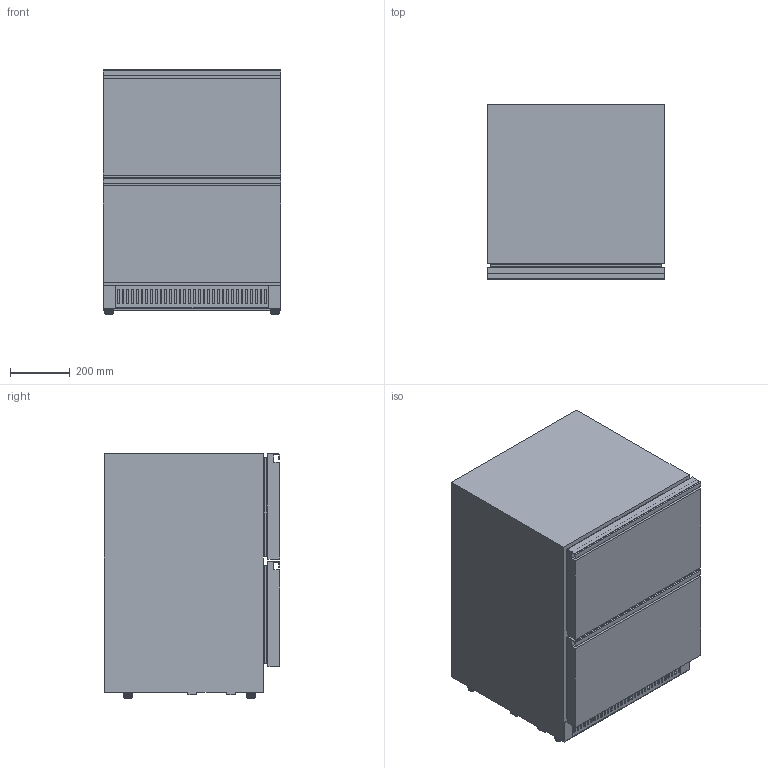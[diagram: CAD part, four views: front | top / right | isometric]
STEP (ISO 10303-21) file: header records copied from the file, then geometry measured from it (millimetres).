
FILE_DESCRIPTION(/* description */ (''),/* implementation_level */ '2;1');
FILE_NAME(/* name */ 'FD1-110_MOCKUP.step',/* time_stamp */ '2026-02-25T15:50:04+01:00',/* author */ (''),/* organization */ (''),/* preprocessor_version */ 'ST-DEVELOPER v20.1',/* originating_system */ 'Autodesk Translation Framework v14.24.0.0',/* authorisation */ '');
FILE_SCHEMA (('AUTOMOTIVE_DESIGN { 1 0 10303 214 3 1 1 }'));
Length unit declared in the file: millimetre
Products named in the file (3): FD1-110_MOCKUP; Corpus; Drawer
Assembly tree (3 placements, depth 2):
  FD1-110_MOCKUP
    Corpus
    Drawer  x2
Bounding box: 595 x 589.8 x 821.2 mm (x, y, z)
Volume: 157312210.4 mm3; surface area: 7319692.8 mm2
Topology: 10 solids, 10 shells, 922 faces, 2408 edges, 1528 vertices
Faces by surface type: plane 672, cylinder 134, cone 112, torus 4
Full cylindrical faces by diameter (mm): 4.5 x4, 8 x4
Entity records: 27315 total; most frequent: CARTESIAN_POINT 5052, DIRECTION 4773, ORIENTED_EDGE 4578, EDGE_CURVE 2289, AXIS2_PLACEMENT_3D 1655, LINE 1463, VECTOR 1463, VERTEX_POINT 1454
